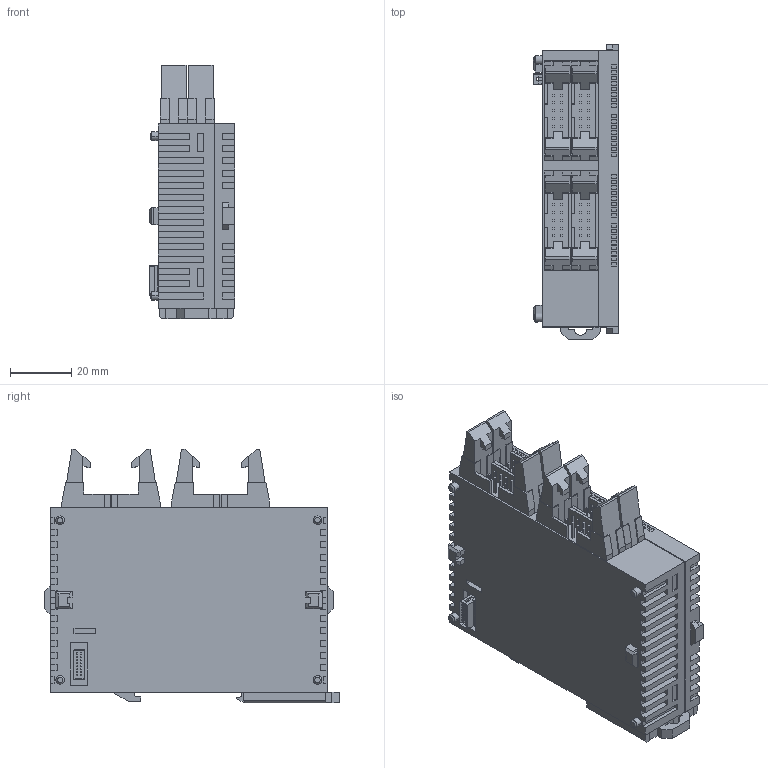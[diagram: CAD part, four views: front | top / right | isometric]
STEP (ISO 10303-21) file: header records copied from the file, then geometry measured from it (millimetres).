
FILE_DESCRIPTION (( 'STEP AP203' ), '1' );
FILE_NAME ('afp0re32t.STEP', '2013-06-28T06:10:53', ( 'sunx' ), ( 'sunx' ), 'SwSTEP 2.0', 'SolidWorks 2010', '' );
FILE_SCHEMA (( 'CONFIG_CONTROL_DESIGN' ));
Length unit declared in the file: millimetre
Products named in the file (1): afp0re32t
Bounding box: 28 x 96.05 x 82.7 mm (x, y, z)
Volume: 141023.7 mm3; surface area: 33131.4 mm2
Topology: 1 solids, 1 shells, 1160 faces, 3103 edges, 2056 vertices
Faces by surface type: plane 1103, cylinder 33, bspline 16, cone 8
Entity records: 35710 total; most frequent: CARTESIAN_POINT 6560, ORIENTED_EDGE 6206, DIRECTION 5475, EDGE_CURVE 3103, VECTOR 3021, LINE 3021, VERTEX_POINT 2056, EDGE_LOOP 1279
